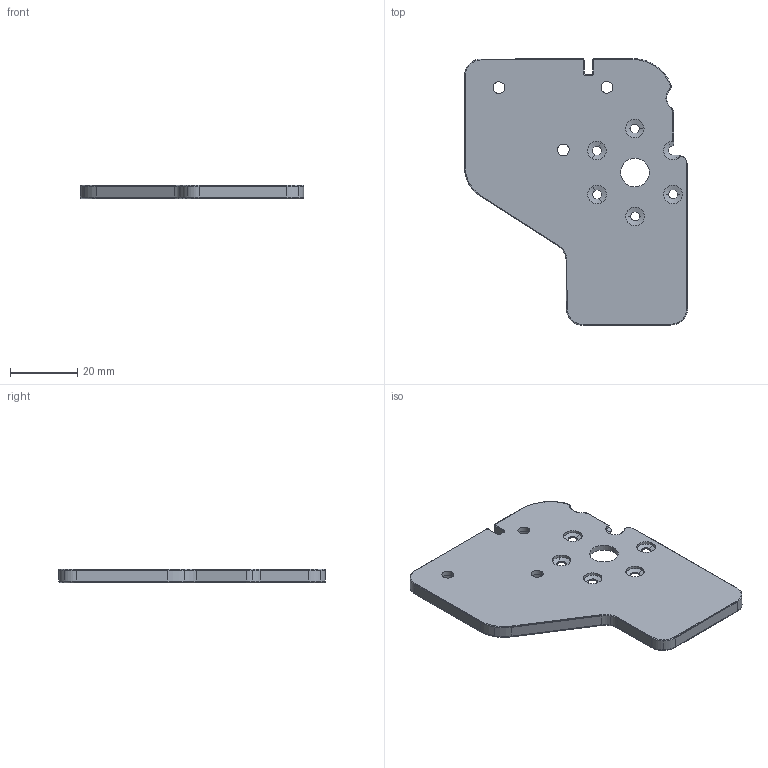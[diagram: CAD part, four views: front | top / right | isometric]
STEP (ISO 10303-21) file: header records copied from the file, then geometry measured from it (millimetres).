
FILE_DESCRIPTION(('STEP AP214'),'1');
FILE_NAME('New Motor Capstan P01 Large v46.stp','2020-10-04T21:15:06',(' '),(' '),'Spatial InterOp 3D',' ',' ');
FILE_SCHEMA(('AUTOMOTIVE_DESIGN { 1 0 10303 214 1 1 1 1 }'));
Length unit declared in the file: metre
Products named in the file (1): Corps1
Bounding box: 66.2 x 79.04 x 4.01 mm (x, y, z)
Volume: 13538.3 mm3; surface area: 9460.3 mm2
Topology: 1 solids, 1 shells, 220 faces, 556 edges, 341 vertices
Faces by surface type: cylinder 139, torus 39, plane 23, cone 13, sphere 5, bspline 1
Entity records: 7018 total; most frequent: CARTESIAN_POINT 1444, DIRECTION 1315, ORIENTED_EDGE 1104, AXIS2_PLACEMENT_3D 561, EDGE_CURVE 552, VERTEX_POINT 341, CIRCLE 336, EDGE_LOOP 245
